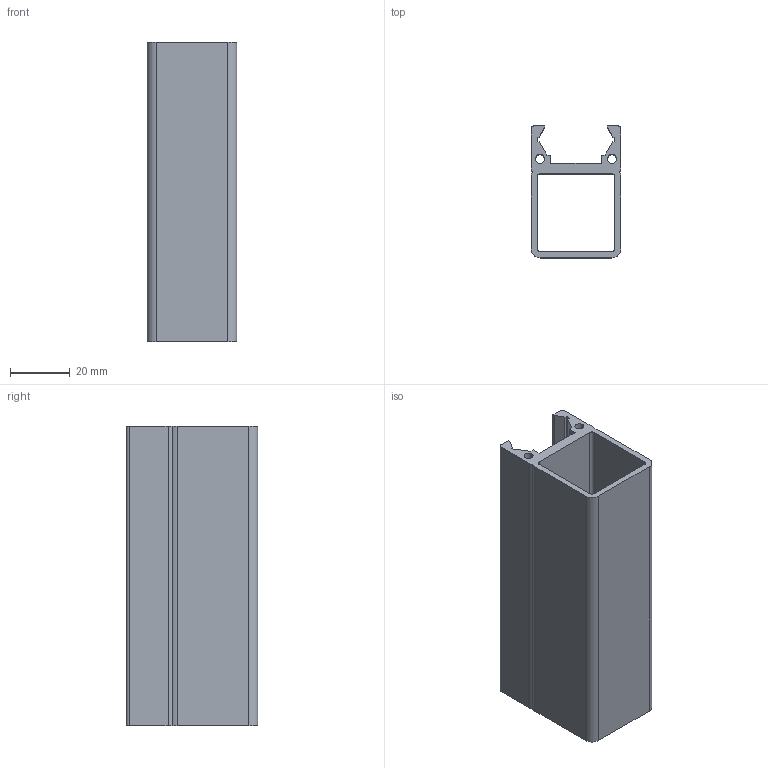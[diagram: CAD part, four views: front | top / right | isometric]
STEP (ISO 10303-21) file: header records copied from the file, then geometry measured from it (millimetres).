
FILE_DESCRIPTION (( 'STEP AP203' ), '1' );
FILE_NAME ('013.030.021.STEP', '2021-03-24T08:18:40', ( '' ), ( '' ), 'SwSTEP 2.0', 'SolidWorks 2018', '' );
FILE_SCHEMA (( 'CONFIG_CONTROL_DESIGN' ));
Length unit declared in the file: millimetre
Products named in the file (1): 013.030.021
Bounding box: 30 x 44 x 100 mm (x, y, z)
Volume: 35579.5 mm3; surface area: 30155 mm2
Topology: 1 solids, 1 shells, 49 faces, 141 edges, 94 vertices
Faces by surface type: plane 30, cylinder 19
Entity records: 1702 total; most frequent: CARTESIAN_POINT 285, ORIENTED_EDGE 282, DIRECTION 279, EDGE_CURVE 141, LINE 103, VECTOR 103, VERTEX_POINT 94, AXIS2_PLACEMENT_3D 88
